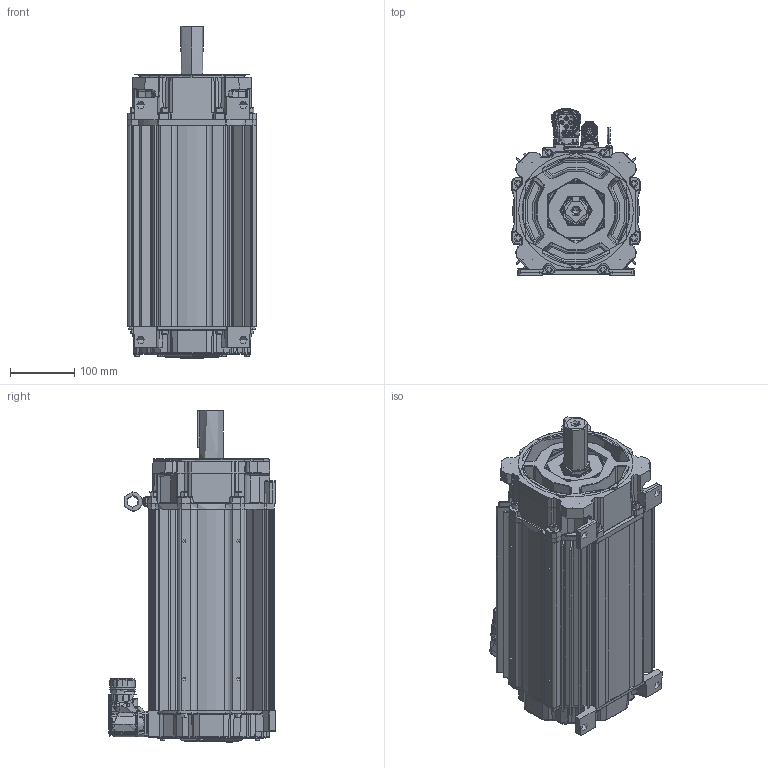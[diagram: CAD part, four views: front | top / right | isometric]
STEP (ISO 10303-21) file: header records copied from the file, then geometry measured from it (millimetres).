
FILE_DESCRIPTION((''),'2;1');
FILE_NAME('10005237080-Y_ASM','2020-01-15T15:11:46',('VThimma'),('Rockwell Automation'),'CREO PARAMETRIC BY PTC INC, 2017380','CREO PARAMETRIC BY PTC INC, 2017380','');
FILE_SCHEMA(('CONFIG_CONTROL_DESIGN','SHAPE_APPEARANCE_LAYERS_GROUPS'));
Products named in the file (27): 10001371549; 10001238886_AF0; 10001298482_AF22; 10001284445_ASM; CH31X150; 10001406660_ASM; 10001370866; 10001830713_ASM; 10001257630_AF255; 10001300098_AF227; 10001284488_ASM; 10001586886; 10000172464; 0002-5005; 10000014325-2; 10000014331; 10000014332-460; 10000014330-460_ASM; PWR40CONN-BRK; PWR40BASE; 10000806125_ASM; 221404-Q12; 10000569218; 10001290343; 0011-2066; 10001609981; 10005237080-Y_ASM
Assembly tree (54 placements, depth 4):
  10005237080-Y_ASM
    10001406660_ASM
      10001371549
      10001284445_ASM
        10001238886_AF0
        10001298482_AF22
      CH31X150  x8
    10001830713_ASM
      10001370866
    10001284488_ASM
      10001257630_AF255
      10001300098_AF227
    10001586886  x8
    10000172464  x5
    0002-5005  x2
    10000014330-460_ASM
      10000014325-2
      10000014331
      10000014332-460
    10000806125_ASM
      PWR40CONN-BRK
      PWR40BASE
    221404-Q12  x10
    10000569218
    10001290343
    0011-2066
    10001609981
Bounding box: 200.45 x 260.05 x 517.29 mm (x, y, z)
Topology: 0 solids, 72 shells, 7484 faces, 19331 edges, 12007 vertices
Faces by surface type: cylinder 2209, plane 1780, bspline 1655, torus 934, cone 688, sphere 175, extrusion 42, revolution 1
Entity records: 385731 total; most frequent: CARTESIAN_POINT 149491, ORIENTED_EDGE 31615, DIRECTION 26528, PRESENTATION_STYLE_ASSIGNMENT 21990, STYLED_ITEM 21990, CURVE_STYLE 15919, EDGE_CURVE 15877, AXIS2_PLACEMENT_3D 10813
